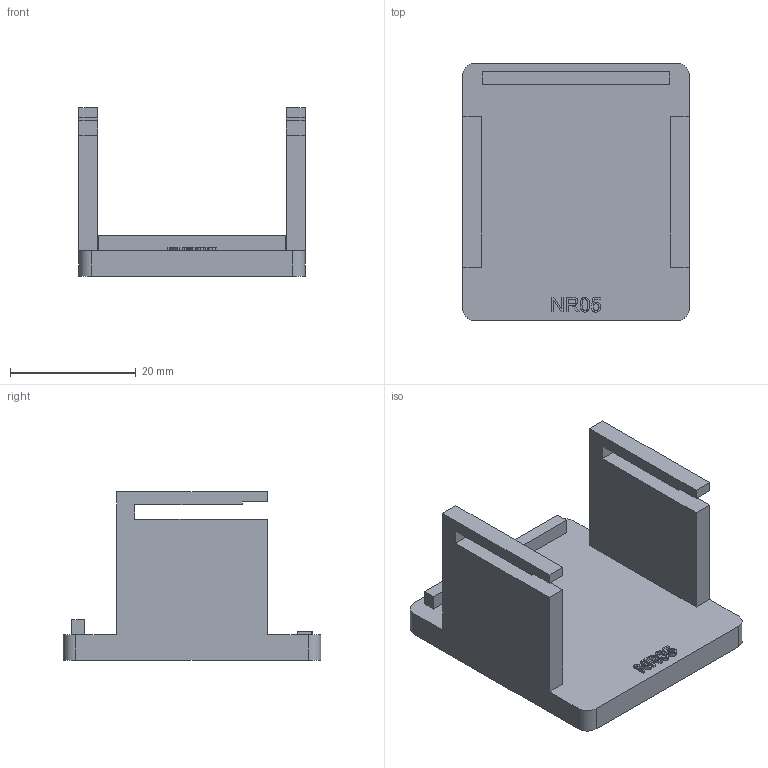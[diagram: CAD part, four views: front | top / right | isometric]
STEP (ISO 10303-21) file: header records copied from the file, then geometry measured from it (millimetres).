
FILE_DESCRIPTION(('Open CASCADE Model'),'2;1');
FILE_NAME('Open CASCADE Shape Model','1970-01-01T00:00:00',('Author'),( 'Open CASCADE'),'Open CASCADE STEP processor 7.8','Open CASCADE 7.8' ,'Unknown');
FILE_SCHEMA(('AUTOMOTIVE_DESIGN { 1 0 10303 214 1 1 1 1 }'));
Length unit declared in the file: millimetre
Products named in the file (2): Open CASCADE STEP translator 7.8 22; NR05D neck storage shoe
Assembly tree (1 placements, depth 2):
  Open CASCADE STEP translator 7.8 22
    NR05D neck storage shoe
Bounding box: 36 x 41 x 26.73 mm (x, y, z)
Volume: 8998.8 mm3; surface area: 6224.9 mm2
Topology: 1 solids, 1 shells, 120 faces, 333 edges, 222 vertices
Faces by surface type: plane 65, extrusion 51, cylinder 4
Entity records: 8967 total; most frequent: CARTESIAN_POINT 2931, DIRECTION 825, ORIENTED_EDGE 666, PCURVE 666, DEFINITIONAL_REPRESENTATION 666, VECTOR 661, LINE 610, B_SPLINE_CURVE_WITH_KNOTS 424
